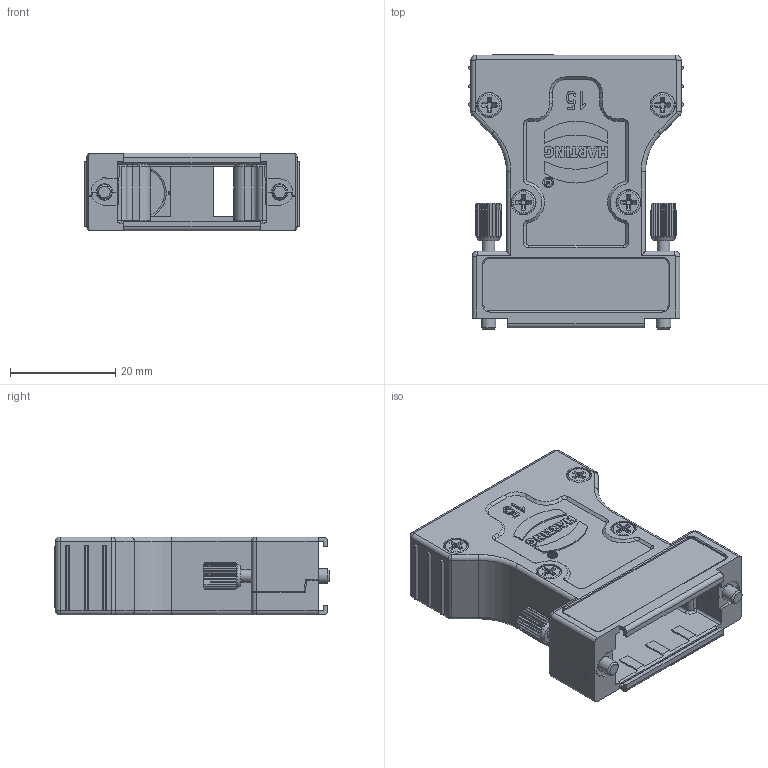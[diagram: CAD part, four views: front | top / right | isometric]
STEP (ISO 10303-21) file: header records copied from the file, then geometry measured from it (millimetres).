
FILE_DESCRIPTION(/* description */ (''),/* implementation_level */ '2;1');
FILE_NAME(/* name */ '100989585ugm000_a.stp',/* time_stamp */ '2022-01-12T09:40:32+01:00',/* author */ (''),/* organization */ (''),/* preprocessor_version */ 'ST-DEVELOPER v16.7',/* originating_system */ 'SIEMENS PLM Software NX 1911',/* authorisation */ '');
FILE_SCHEMA (('AUTOMOTIVE_DESIGN { 1 0 10303 214 3 1 1 1 }'));
Products named in the file (1): 100989585ugm000_a
Bounding box: 41 x 52.15 x 14.8 mm (x, y, z)
Volume: 9730.1 mm3; surface area: 13362.4 mm2
Topology: 1 solids, 5 shells, 1657 faces, 4472 edges, 2866 vertices
Faces by surface type: plane 1088, cylinder 369, bspline 85, cone 72, torus 25, extrusion 14, sphere 4
Full cylindrical faces by diameter (mm): 1.2 x1, 1.5 x3, 2 x2, 2.07 x4, 2.15 x4, 2.35 x4, 2.4 x4, 2.5 x4, 2.8 x2, 2.9 x4, 3.1 x2, 4.8 x4, 9.5 x1
Entity records: 65781 total; most frequent: CARTESIAN_POINT 14053, ORIENTED_EDGE 8706, DIRECTION 7570, EDGE_CURVE 4353, VECTOR 3122, LINE 3108, VERTEX_POINT 2842, AXIS2_PLACEMENT_3D 2224
